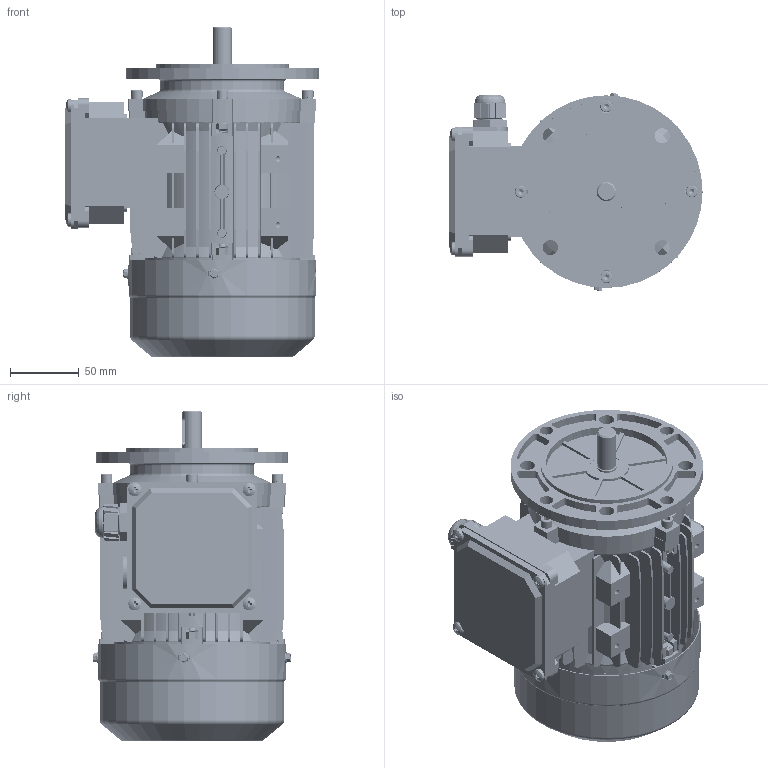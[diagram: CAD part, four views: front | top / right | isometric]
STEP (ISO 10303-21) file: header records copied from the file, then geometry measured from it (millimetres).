
FILE_DESCRIPTION (( 'STEP AP203' ), '1' );
FILE_NAME ('MS71M B5R 3D蚾饜芞.STEP', '2024-08-23T08:19:46', ( 'User' ), ( 'China' ), 'SwSTEP 2.0', 'SolidWorks 2018', '' );
FILE_SCHEMA (( 'CONFIG_CONTROL_DESIGN' ));
Length unit declared in the file: millimetre
Products named in the file (20): MS63-71諉盄碟菁釱; pan cross head screw_as_AS-NZS 1427 PC- M5 x 8-S; 8.034.07101MS71 S儂褲; MS63-71諉盄碟裔; 蹟杶郋M20X1.5; 8.013.07102MS71綴傷裔; MS71B5R傷裔; 蹟簸M20X1.5; 8.200.07101MS71 S蛌粣; MS71M B5R 3D蚾饜芞; hexagon socket head cap screws gb_GB_FASTENER_SCREWS_HSHCS M5X25-S; hexagon socket head cap screw_as_AS 1420 - M5 x 25-S; spring lock washers--normal type gb_GB_FASTENER_WASHER_SW 5; hexagon nut (grades c) as_AS 1112.3 C- M5-S; hex nuts, style 1-grades ab gb_GB_FASTENER_NUT_SNAB1 M5-N; 8.306.07101MS71邧脯瑞欶; 蚐猾25X14X4; hex washer head screw_as_AS-NZS 1427 HW - M4 x 6-N; 黑芛20X1.5; pan cross head screw_as_AS-NZS 1427 PC- M4 x 8-S
Assembly tree (41 placements, depth 2):
  MS71M B5R 3D蚾饜芞
    8.034.07101MS71 S儂褲
    8.013.07102MS71綴傷裔
    8.200.07101MS71 S蛌粣
    hexagon socket head cap screw_as_AS 1420 - M5 x 25-S  x4
    hexagon nut (grades c) as_AS 1112.3 C- M5-S  x4
    8.306.07101MS71邧脯瑞欶
    hex washer head screw_as_AS-NZS 1427 HW - M4 x 6-N  x3
    pan cross head screw_as_AS-NZS 1427 PC- M4 x 8-S  x4
    pan cross head screw_as_AS-NZS 1427 PC- M5 x 8-S  x4
    蹟杶郋M20X1.5
    蹟簸M20X1.5
    hexagon socket head cap screws gb_GB_FASTENER_SCREWS_HSHCS M5X25-S  x4
    spring lock washers--normal type gb_GB_FASTENER_WASHER_SW 5  x4
    hex nuts, style 1-grades ab gb_GB_FASTENER_NUT_SNAB1 M5-N  x3
    蚐猾25X14X4
    黑芛20X1.5
    MS63-71諉盄碟菁釱
    MS63-71諉盄碟裔
    MS71B5R傷裔
Bounding box: 184 x 143.8 x 240.1 mm (x, y, z)
Volume: 640601.1 mm3; surface area: 463330.5 mm2
Topology: 41 solids, 50 shells, 5937 faces, 14321 edges, 8548 vertices
Faces by surface type: plane 2174, cone 1976, cylinder 1521, bspline 146, torus 104, sphere 16
Entity records: 131348 total; most frequent: CARTESIAN_POINT 42308, ORIENTED_EDGE 18790, DIRECTION 16862, EDGE_CURVE 9395, VERTEX_POINT 5980, AXIS2_PLACEMENT_3D 5699, VECTOR 5464, LINE 5464
